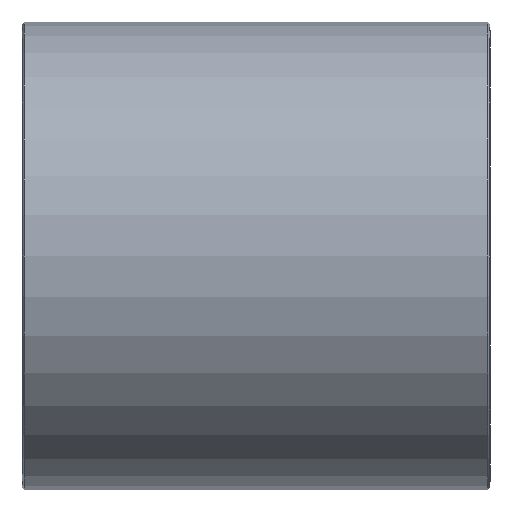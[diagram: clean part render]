
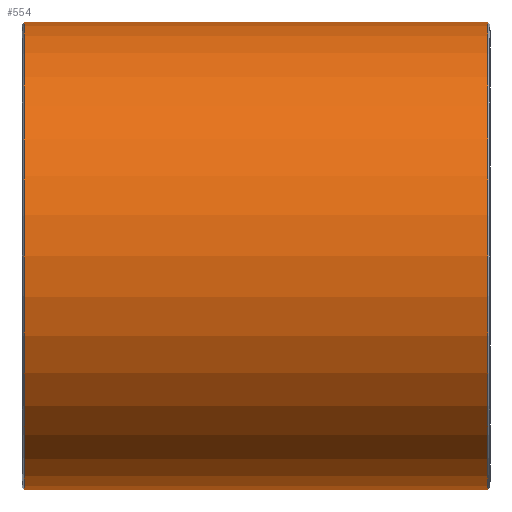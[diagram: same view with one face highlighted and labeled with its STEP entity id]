
A CAD part, left-side view. The second image highlights one B-rep face of the part: STEP entity #554.
In plain terms, the highlighted cylindrical face has radius 50 mm (diameter 100 mm), a partial arc.
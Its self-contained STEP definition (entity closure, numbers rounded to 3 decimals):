
#37 = DIRECTION ( 'NONE',  ( 0., 1., 0. ) ) ;
#74 = DIRECTION ( 'NONE',  ( 0., -1., 0. ) ) ;
#90 = CIRCLE ( 'NONE', #754, 50. ) ;
#218 = ORIENTED_EDGE ( 'NONE', *, *, #1022, .T. ) ;
#312 = DIRECTION ( 'NONE',  ( 0., 0., 1. ) ) ;
#325 = ORIENTED_EDGE ( 'NONE', *, *, #777, .F. ) ;
#357 = EDGE_CURVE ( 'NONE', #1075, #568, #621, .T. ) ;
#405 = VERTEX_POINT ( 'NONE', #506 ) ;
#427 = AXIS2_PLACEMENT_3D ( 'NONE', #856, #74, #570 ) ;
#429 = DIRECTION ( 'NONE',  ( 0., 1., 0. ) ) ;
#431 = FACE_OUTER_BOUND ( 'NONE', #749, .T. ) ;
#448 = DIRECTION ( 'NONE',  ( 0., 1., 0. ) ) ;
#459 = CARTESIAN_POINT ( 'NONE',  ( 0., -98., 50. ) ) ;
#475 = AXIS2_PLACEMENT_3D ( 'NONE', #547, #744, #312 ) ;
#488 = ORIENTED_EDGE ( 'NONE', *, *, #1187, .T. ) ;
#495 = CARTESIAN_POINT ( 'NONE',  ( 0., 1., 50. ) ) ;
#506 = CARTESIAN_POINT ( 'NONE',  ( 0., 1., -50. ) ) ;
#547 = CARTESIAN_POINT ( 'NONE',  ( 0., 65.513, 0. ) ) ;
#548 = DIRECTION ( 'NONE',  ( 0., 0., -1. ) ) ;
#554 = ADVANCED_FACE ( 'NONE', ( #431 ), #1026, .T. ) ;
#556 = CARTESIAN_POINT ( 'NONE',  ( 0., -98., -50. ) ) ;
#568 = VERTEX_POINT ( 'NONE', #495 ) ;
#570 = DIRECTION ( 'NONE',  ( 0., 0., 1. ) ) ;
#587 = LINE ( 'NONE', #1042, #770 ) ;
#621 = LINE ( 'NONE', #1227, #1016 ) ;
#625 = CIRCLE ( 'NONE', #427, 50. ) ;
#744 = DIRECTION ( 'NONE',  ( 0., 1., 0. ) ) ;
#749 = EDGE_LOOP ( 'NONE', ( #325, #488, #948, #218 ) ) ;
#754 = AXIS2_PLACEMENT_3D ( 'NONE', #1043, #448, #548 ) ;
#770 = VECTOR ( 'NONE', #429, 1000. ) ;
#777 = EDGE_CURVE ( 'NONE', #975, #405, #587, .T. ) ;
#856 = CARTESIAN_POINT ( 'NONE',  ( 0., 1., 0. ) ) ;
#948 = ORIENTED_EDGE ( 'NONE', *, *, #357, .T. ) ;
#975 = VERTEX_POINT ( 'NONE', #556 ) ;
#1016 = VECTOR ( 'NONE', #37, 1000. ) ;
#1022 = EDGE_CURVE ( 'NONE', #568, #405, #625, .T. ) ;
#1026 = CYLINDRICAL_SURFACE ( 'NONE', #475, 50. ) ;
#1042 = CARTESIAN_POINT ( 'NONE',  ( 0., 65.513, -50. ) ) ;
#1043 = CARTESIAN_POINT ( 'NONE',  ( 0., -98., 0. ) ) ;
#1075 = VERTEX_POINT ( 'NONE', #459 ) ;
#1187 = EDGE_CURVE ( 'NONE', #975, #1075, #90, .T. ) ;
#1227 = CARTESIAN_POINT ( 'NONE',  ( 0., 65.513, 50. ) ) ;
